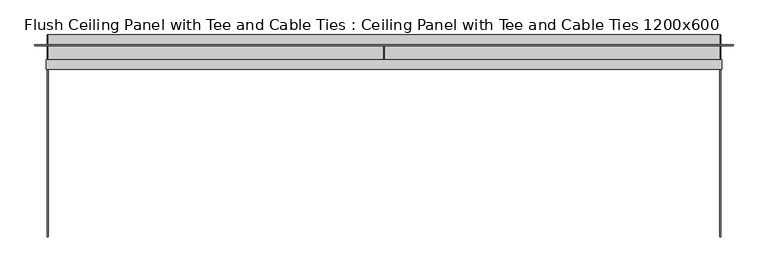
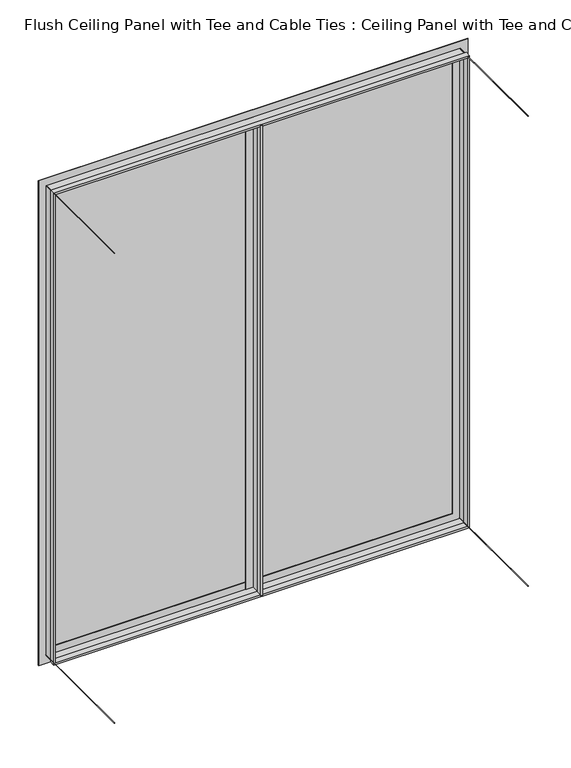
"""IFC4 building model written with IfcOpenShell, lengths in millimetres: plate geometry, Flush Ceiling Panel with Tee and Cable Ties : Ceiling Panel with Tee and Cable Ties 1200x600."""

from ifc_helpers import new_model, si_unit, point, frame, frame_2d, origin, origin_with_axes, place, context, project, spatial, polyline, circle_curve, trimmed, segment, composite_curve, outline, extrude, faceted_brep, source, transform, mapped, element, save


def flush_ceiling_panel_with_tee_and_cable_ties_ceiling_panel_c41c92fd(model_context):
    return source(origin(), model_context, "Body", "SolidModel", [
        extrude(outline(composite_curve([segment(trimmed(circle_curve(frame_2d((1200.0, 500.0000002)), 0.5), [point((1200.0, 500.5000002))], [point((1200.0, 499.5000002))], False, "CARTESIAN"), True, "CONTINUOUS"), segment(trimmed(circle_curve(frame_2d((1200.0, 500.0000002)), 0.5), [point((1200.0, 499.5000002))], [point((1200.0, 500.5000002))], False, "CARTESIAN"), True, "CONTINUOUS")], self_intersect=False)), frame((0.0, -300.0, 0.0), z_axis=(0.0, 1.0, 0.0), x_axis=(0.0, 0.0, 1.0)), (0.0, 0.0, 1.0), 300.0),
        extrude(outline(composite_curve([segment(trimmed(circle_curve(frame_2d((1200.0, -500.0000002)), 0.5), [point((1200.0, -499.5000002))], [point((1200.0, -500.5000002))], False, "CARTESIAN"), True, "CONTINUOUS"), segment(trimmed(circle_curve(frame_2d((1200.0, -500.0000002)), 0.5), [point((1200.0, -500.5000002))], [point((1200.0, -499.5000002))], False, "CARTESIAN"), True, "CONTINUOUS")], self_intersect=False)), frame((0.0, -300.0, 0.0), z_axis=(0.0, 1.0, 0.0), x_axis=(0.0, 0.0, 1.0)), (0.0, 0.0, 1.0), 300.0),
        extrude(outline(composite_curve([segment(trimmed(circle_curve(frame_2d((0.0, 500.0000002)), 0.5), [point((0.0, 500.5000002))], [point((0.0, 499.5000002))], False, "CARTESIAN"), True, "CONTINUOUS"), segment(trimmed(circle_curve(frame_2d((0.0, 500.0000002)), 0.5), [point((0.0, 499.5000002))], [point((0.0, 500.5000002))], False, "CARTESIAN"), True, "CONTINUOUS")], self_intersect=False)), frame((0.0, -300.0, 0.0), z_axis=(0.0, 1.0, 0.0), x_axis=(0.0, 0.0, 1.0)), (0.0, 0.0, 1.0), 300.0),
        extrude(outline(composite_curve([segment(trimmed(circle_curve(frame_2d((0.0, -500.0000002)), 0.5), [point((0.0, -499.5000002))], [point((0.0, -500.5000002))], False, "CARTESIAN"), True, "CONTINUOUS"), segment(trimmed(circle_curve(frame_2d((0.0, -500.0000002)), 0.5), [point((0.0, -500.5000002))], [point((0.0, -499.5000002))], False, "CARTESIAN"), True, "CONTINUOUS")], self_intersect=False)), frame((0.0, -300.0, 0.0), z_axis=(0.0, 1.0, 0.0), x_axis=(0.0, 0.0, 1.0)), (0.0, 0.0, 1.0), 300.0),
        extrude(outline(polyline([(19.0, -15.0), (19.0, -16.0), (0.5, -16.0), (0.5, -37.0), (2.5, -37.0), (2.5, -51.0), (-2.5, -51.0), (-2.5, -37.0), (-0.5, -37.0), (-0.5, -16.0), (-19.0, -16.0), (-19.0, -15.0), (19.0, -15.0)])), origin_with_axes(), (0.0, 0.0, 1.0), 1200.0),
        faceted_brep([(481.0000002, -16.0, 1181.0), (481.0000002, -15.0, 1181.0), (481.0000002, -15.0, 19.0), (481.0000002, -16.0, 19.0), (499.5000002, -37.0, 1199.5), (499.5000002, -16.0, 1199.5), (499.5000002, -16.0, 0.5), (499.5000002, -37.0, 0.5), (497.5000002, -51.0, 1197.5), (497.5000002, -37.0, 1197.5), (497.5000002, -37.0, 2.5), (497.5000002, -51.0, 2.5), (502.5000002, -37.0, 1202.5), (502.5000002, -51.0, 1202.5), (502.5000002, -51.0, -2.5), (502.5000002, -37.0, -2.5), (500.5000002, -16.0, 1200.5), (500.5000002, -37.0, 1200.5), (500.5000002, -37.0, -0.5), (500.5000002, -16.0, -0.5), (519.0000002, -15.0, 1219.0), (519.0000002, -16.0, 1219.0), (519.0000002, -16.0, -19.0), (519.0000002, -15.0, -19.0), (-481.0000002, -15.0, 19.0), (-481.0000002, -16.0, 19.0), (-499.5000002, -16.0, 0.5), (-499.5000002, -37.0, 0.5), (-497.5000002, -37.0, 2.5), (-497.5000002, -51.0, 2.5), (-502.5000002, -51.0, -2.5), (-502.5000002, -37.0, -2.5), (-500.5000002, -37.0, -0.5), (-500.5000002, -16.0, -0.5), (-519.0000002, -16.0, -19.0), (-519.0000002, -15.0, -19.0), (-481.0000002, -15.0, 1181.0), (-481.0000002, -16.0, 1181.0), (-499.5000002, -16.0, 1199.5), (-499.5000002, -37.0, 1199.5), (-497.5000002, -37.0, 1197.5), (-497.5000002, -51.0, 1197.5), (-502.5000002, -51.0, 1202.5), (-502.5000002, -37.0, 1202.5), (-500.5000002, -37.0, 1200.5), (-500.5000002, -16.0, 1200.5), (-519.0000002, -16.0, 1219.0), (-519.0000002, -15.0, 1219.0)], [[[0, 1, 2, 3]], [[4, 5, 6, 7]], [[8, 9, 10, 11]], [[12, 13, 14, 15]], [[16, 17, 18, 19]], [[20, 21, 22, 23]], [[3, 2, 24, 25]], [[7, 6, 26, 27]], [[11, 10, 28, 29]], [[15, 14, 30, 31]], [[19, 18, 32, 33]], [[23, 22, 34, 35]], [[25, 24, 36, 37]], [[27, 26, 38, 39]], [[29, 28, 40, 41]], [[31, 30, 42, 43]], [[33, 32, 44, 45]], [[35, 34, 46, 47]], [[23, 35, 47, 20], [1, 36, 24, 2]], [[37, 36, 1, 0]], [[5, 38, 26, 6], [3, 25, 37, 0]], [[39, 38, 5, 4]], [[7, 27, 39, 4], [9, 40, 28, 10]], [[41, 40, 9, 8]], [[13, 42, 30, 14], [11, 29, 41, 8]], [[43, 42, 13, 12]], [[15, 31, 43, 12], [17, 44, 32, 18]], [[45, 44, 17, 16]], [[21, 46, 34, 22], [19, 33, 45, 16]], [[47, 46, 21, 20]]]),
        extrude(outline(polyline([(500.0000002, -15.0), (-500.0000002, -15.0), (-500.0000002, 0.0), (500.0000002, 0.0), (500.0000002, -15.0)])), origin_with_axes(), (0.0, 0.0, 1.0), 1200.0),
    ])


if __name__ == "__main__":
    model = new_model("IFC4")
    model_context = context("Model", 3, world=origin())
    ifc_project = project(units=[si_unit("LENGTHUNIT", "METRE", prefix="MILLI")], contexts=[model_context])
    site = spatial("IfcSite", under=ifc_project)
    building = spatial("IfcBuilding", under=site)
    placement = place(None, origin())
    flush_ceiling_panel_with_tee_and_cable_ties_ceiling_panel_shape = flush_ceiling_panel_with_tee_and_cable_ties_ceiling_panel_c41c92fd(model_context)
    element("IfcPlate", 1, ObjectType="Flush Ceiling Panel with Tee and Cable Ties : Ceiling Panel with Tee and Cable Ties 1200x600", at=placement, inside=building, context=model_context, shape_type="MappedRepresentation", body=[
        mapped(flush_ceiling_panel_with_tee_and_cable_ties_ceiling_panel_shape, transform((0.0, 0.0, 0.0), x_axis=(1.0, 0.0, 0.0), y_axis=(0.0, 1.0, 0.0), z_axis=(0.0, 0.0, 1.0))),
    ])
    save(model, "model.ifc")
